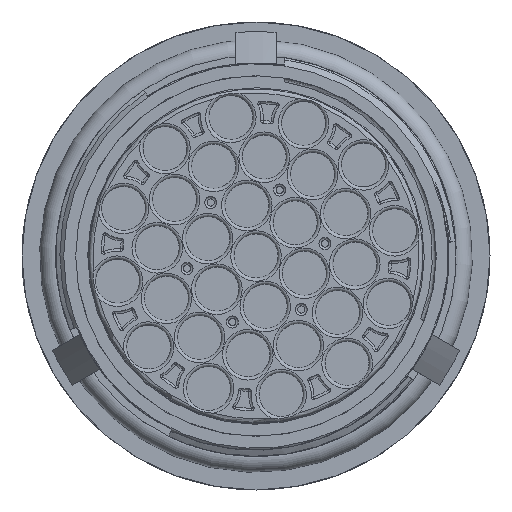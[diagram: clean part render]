
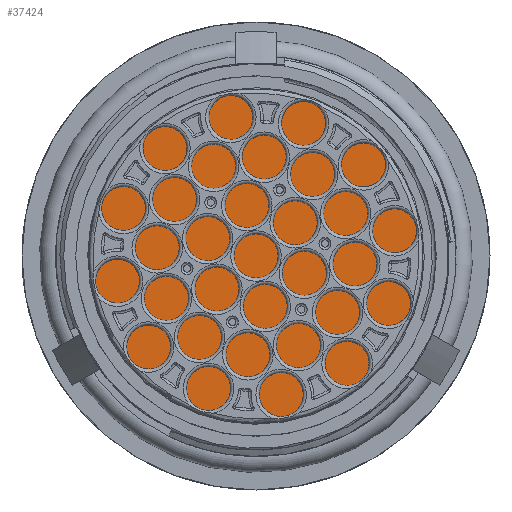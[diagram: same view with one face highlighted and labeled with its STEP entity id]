
A CAD part, front view. The second image highlights one B-rep face of the part: STEP entity #37424.
In plain terms, the highlighted planar face has unit normal (0, -1, 0) as drawn and (0, 1, 0) by its records, which use the part's own axes.
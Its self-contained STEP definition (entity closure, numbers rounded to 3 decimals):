
#6267=PLANE('',#42366);
#6736=FACE_BOUND('',#11821,.T.);
#6737=FACE_BOUND('',#11822,.T.);
#6738=FACE_BOUND('',#11823,.T.);
#9080=FACE_OUTER_BOUND('',#11820,.T.);
#11820=EDGE_LOOP('',(#34602));
#11821=EDGE_LOOP('',(#34603));
#11822=EDGE_LOOP('',(#34604));
#11823=EDGE_LOOP('',(#34605));
#14757=CIRCLE('',#42355,1.9);
#14759=CIRCLE('',#42358,1.9);
#14761=CIRCLE('',#42361,1.9);
#14763=CIRCLE('',#42364,23.);
#18307=VERTEX_POINT('',#74315);
#18309=VERTEX_POINT('',#74320);
#18311=VERTEX_POINT('',#74325);
#18313=VERTEX_POINT('',#74330);
#23762=EDGE_CURVE('',#18307,#18307,#14757,.T.);
#23764=EDGE_CURVE('',#18309,#18309,#14759,.T.);
#23766=EDGE_CURVE('',#18311,#18311,#14761,.T.);
#23768=EDGE_CURVE('',#18313,#18313,#14763,.T.);
#34602=ORIENTED_EDGE('',*,*,#23768,.T.);
#34603=ORIENTED_EDGE('',*,*,#23762,.T.);
#34604=ORIENTED_EDGE('',*,*,#23764,.T.);
#34605=ORIENTED_EDGE('',*,*,#23766,.T.);
#37424=ADVANCED_FACE('',(#9080,#6736,#6737,#6738),#6267,.T.);
#42355=AXIS2_PLACEMENT_3D('',#74316,#53738,#53739);
#42358=AXIS2_PLACEMENT_3D('',#74321,#53744,#53745);
#42361=AXIS2_PLACEMENT_3D('',#74326,#53750,#53751);
#42364=AXIS2_PLACEMENT_3D('',#74331,#53756,#53757);
#42366=AXIS2_PLACEMENT_3D('',#74334,#53760,#53761);
#53738=DIRECTION('center_axis',(0.,-1.,0.));
#53739=DIRECTION('ref_axis',(-1.,0.,0.));
#53744=DIRECTION('center_axis',(0.,-1.,0.));
#53745=DIRECTION('ref_axis',(-1.,0.,0.));
#53750=DIRECTION('center_axis',(0.,-1.,0.));
#53751=DIRECTION('ref_axis',(-1.,0.,0.));
#53756=DIRECTION('center_axis',(0.,1.,0.));
#53757=DIRECTION('ref_axis',(-1.,0.,0.));
#53760=DIRECTION('center_axis',(0.,1.,0.));
#53761=DIRECTION('ref_axis',(0.,0.,1.));
#74315=CARTESIAN_POINT('',(19.758,0.875,-8.436));
#74316=CARTESIAN_POINT('Origin',(17.858,0.875,-8.436));
#74320=CARTESIAN_POINT('',(0.277,0.875,19.683));
#74321=CARTESIAN_POINT('Origin',(-1.623,0.875,19.683));
#74325=CARTESIAN_POINT('',(-6.536,0.875,-17.858));
#74326=CARTESIAN_POINT('Origin',(-8.436,0.875,-17.858));
#74330=CARTESIAN_POINT('',(-23.,0.875,0.));
#74331=CARTESIAN_POINT('Origin',(0.,0.875,0.));
#74334=CARTESIAN_POINT('Origin',(-11.5,0.875,0.));
